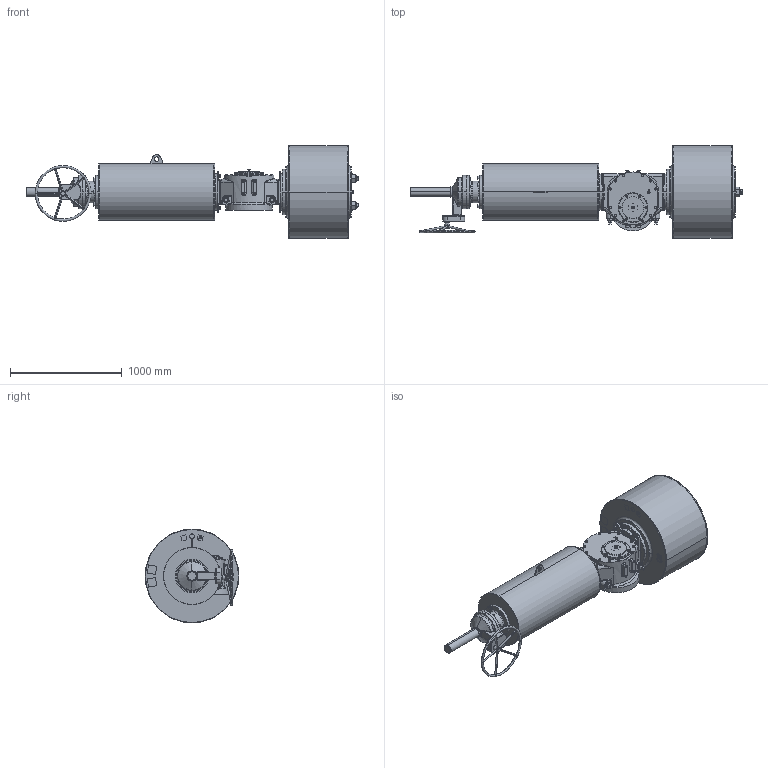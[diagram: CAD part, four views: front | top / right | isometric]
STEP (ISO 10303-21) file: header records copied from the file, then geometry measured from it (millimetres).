
FILE_DESCRIPTION (( 'STEP AP203' ), '1' );
FILE_NAME ('VTS5-800-SR-MG-FO.STEP', '2023-01-01T09:49:11', ( '' ), ( '' ), 'SwSTEP 2.0', 'SolidWorks 2020', '' );
FILE_SCHEMA (( 'CONFIG_CONTROL_DESIGN' ));
Length unit declared in the file: millimetre
Products named in the file (1): VTS5-800-SR-MG-FO
Bounding box: 2974.5 x 839 x 839 mm (x, y, z)
Volume: 595457464.8 mm3; surface area: 7691712.9 mm2
Topology: 5 solids, 17 shells, 2696 faces, 6865 edges, 4280 vertices
Faces by surface type: plane 1049, cylinder 900, cone 582, bspline 117, torus 48
Entity records: 101084 total; most frequent: CARTESIAN_POINT 37046, ORIENTED_EDGE 13494, DIRECTION 13398, EDGE_CURVE 6747, AXIS2_PLACEMENT_3D 5368, VERTEX_POINT 4280, EDGE_LOOP 3059, CIRCLE 2788
